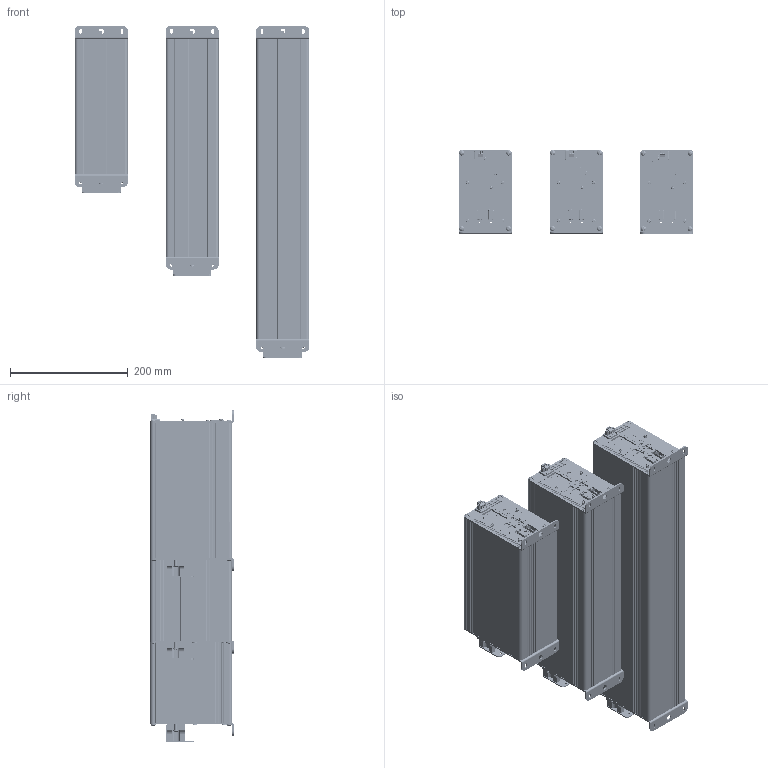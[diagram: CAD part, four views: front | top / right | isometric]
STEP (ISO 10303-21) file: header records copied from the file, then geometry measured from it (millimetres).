
FILE_DESCRIPTION(/* description */ (''),/* implementation_level */ '2;1');
FILE_NAME(/* name */ '',/* time_stamp */ '2026-07-16T11:47:44+09:00',/* author */ ('Administrator'),/* organization */ (''),/* preprocessor_version */ 'ST-DEVELOPER v20.1',/* originating_system */ 'Autodesk Inventor 2026',/* authorisation */ '');
FILE_SCHEMA (('AUTOMOTIVE_DESIGN { 1 0 10303 214 3 1 1 }'));
Products named in the file (1): CVCOM조립품3_단순화_1
Bounding box: 398.57 x 142.38 x 564.46 mm (x, y, z)
Volume: 1878899.2 mm3; surface area: 1496554.6 mm2
Topology: 27 solids, 27 shells, 15927 faces, 42453 edges, 27735 vertices
Faces by surface type: plane 9204, bspline 3219, cylinder 3078, torus 318, sphere 63, cone 45
Full cylindrical faces by diameter (mm): 0.013 x27, 0.457 x6, 0.6 x9, 0.61 x81, 0.635 x27, 0.7 x54, 0.75 x54, 0.85 x9, 0.9 x60, 1 x15, 1.397 x27, 1.5 x12, 2.1 x12, 2.286 x27, 2.4 x6, 2.5 x12, 2.8 x30, 2.9 x6, 2.957 x24, 3 x12, 3.048 x12, 3.4 x15, 3.8 x30, 3.9 x6, 4 x45, 4.3 x12, 4.5 x30, 5 x24, 5.4 x12, 5.429 x12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
Entity records: 563475 total; most frequent: CARTESIAN_POINT 165301, ORIENTED_EDGE 84792, DIRECTION 68759, EDGE_CURVE 42396, VERTEX_POINT 27732, LINE 27177, VECTOR 27177, AXIS2_PLACEMENT_3D 20791
